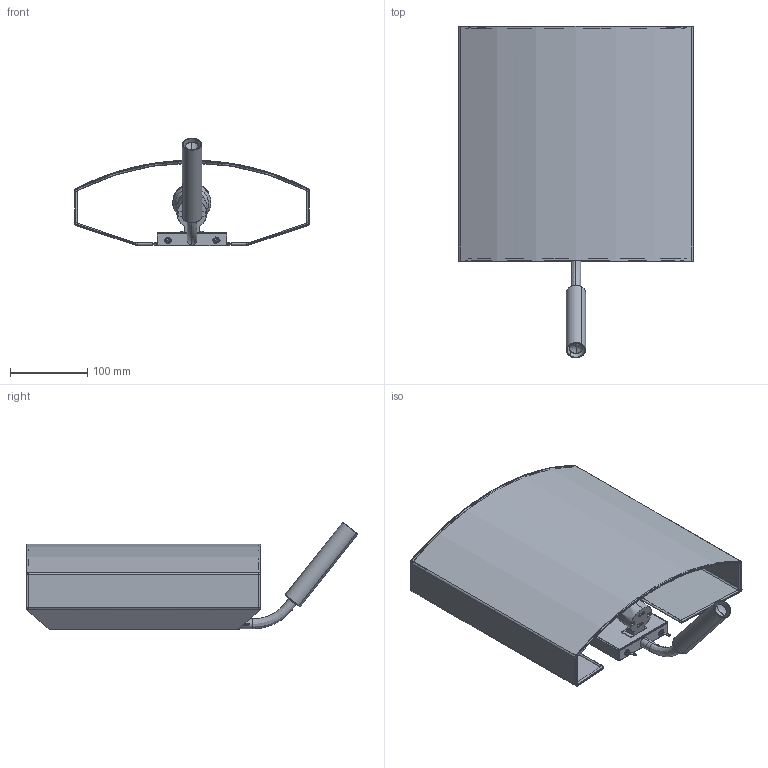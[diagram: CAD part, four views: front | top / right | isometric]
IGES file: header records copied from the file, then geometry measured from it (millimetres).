
Start section: SolidWorks IGES file using analytic representation for surfaces
Global section: file name: Z:\Modele 3D_WWW\_KOLEKCJE_WWW\BORDE\BORDE-II-7985-7986-7987\BORDE-II-7985-7986-7987.IGS; native system: SolidWorks 2020; preprocessor: SolidWorks 2020; author: gabriela.tworek; date: 210510.105550; units: millimetre
Bounding box: 304.04 x 429.31 x 139.38 mm (x, y, z)
Surface area: 447393.8 mm2 (no closed solid volume)
Topology: 0 solids, 0 shells, 520 faces, 5686 edges, 5659 vertices
Faces by surface type: bspline 292, revolution 228
